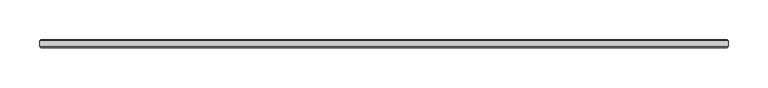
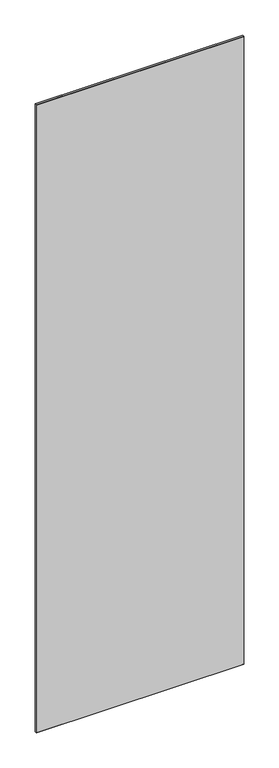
"""IFC4 building model written with IfcOpenShell, lengths in millimetres: plate geometry, 11-AMG-1-Панель одинарный витраж 10-12 : Центр Толщина 10mm."""

from ifc_helpers import new_model, si_unit, origin, place, context, project, spatial, faceted_brep, source, transform, mapped, element, save


def plate_76343fb0(model_context):
    return source(origin(), model_context, "Body", "Brep", [
        faceted_brep([(433.8, -3.4961653, 2777.6), (433.8, 3.4961653, 2777.6), (-433.8, 3.4961653, 2777.6), (-433.8, -3.4961653, 2777.6), (433.8, 3.4961653, 5.0), (433.8, -3.4961653, 5.0), (-433.8, -3.4961653, 5.0), (-433.8, 3.4961653, 5.0), (-432.2961653, 5.0, 2776.0961653), (432.2961653, 5.0, 2776.0961653), (432.2961653, 5.0, 6.4960578), (-432.2961653, 5.0, 6.4960578), (432.2961653, -5.0, 2776.0961653), (-432.2961653, -5.0, 2776.0961653), (-432.2961653, -5.0, 6.5038347), (432.2961653, -5.0, 6.5038347)], [[[0, 1, 2, 3]], [[4, 5, 6, 7]], [[8, 9, 10, 11]], [[3, 2, 7, 6]], [[12, 13, 14, 15]], [[1, 0, 5, 4]], [[1, 4, 10, 9]], [[5, 0, 12, 15]], [[7, 2, 8, 11]], [[3, 6, 14, 13]], [[0, 3, 13, 12]], [[2, 1, 9, 8]], [[6, 5, 15, 14]], [[4, 7, 11, 10]]]),
    ])


if __name__ == "__main__":
    model = new_model("IFC4")
    model_context = context("Model", 3, world=origin())
    ifc_project = project(units=[si_unit("LENGTHUNIT", "METRE", prefix="MILLI")], contexts=[model_context])
    site = spatial("IfcSite", under=ifc_project)
    building = spatial("IfcBuilding", under=site)
    placement = place(None, origin())
    plate_shape = plate_76343fb0(model_context)
    element("IfcPlate", 1, ObjectType="11-AMG-1-Панель одинарный витраж 10-12 : Центр Толщина 10mm", at=placement, inside=building, context=model_context, shape_type="MappedRepresentation", body=[
        mapped(plate_shape, transform((0.0, 0.0, 0.0), x_axis=(1.0, 0.0, 0.0), y_axis=(0.0, 1.0, 0.0), z_axis=(0.0, 0.0, 1.0))),
    ])
    save(model, "model.ifc")
